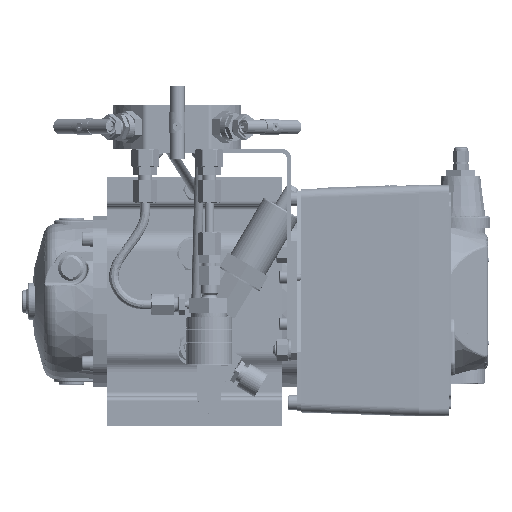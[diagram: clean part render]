
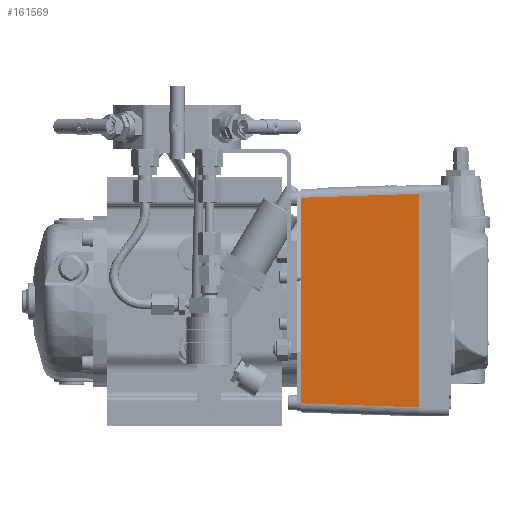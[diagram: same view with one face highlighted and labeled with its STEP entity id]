
A CAD part, top view. The second image highlights one B-rep face of the part: STEP entity #161569.
In plain terms, the highlighted planar face has unit normal (-0.034, 0, 0.999).
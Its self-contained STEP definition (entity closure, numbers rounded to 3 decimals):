
#161569=ADVANCED_FACE('',(#229983),#229985,.T.);
#229983=FACE_BOUND('',#229984,.T.);
#229984=EDGE_LOOP('',(#258876,#258877,#258878,#258879));
#229985=PLANE('',#229986);
#229986=AXIS2_PLACEMENT_3D('',#229987,#229988,#229989);
#229987=CARTESIAN_POINT('',(73.,76.5,329.25));
#229988=DIRECTION('',(-0.034,0.,0.999));
#229989=DIRECTION('',(0.,-1.,0.));
#258876=ORIENTED_EDGE('',*,*,#305659,.F.);
#258877=ORIENTED_EDGE('',*,*,#305591,.T.);
#258878=ORIENTED_EDGE('',*,*,#305660,.T.);
#258879=ORIENTED_EDGE('',*,*,#305553,.F.);
#305553=EDGE_CURVE('',#451567,#451569,#451570,.T.);
#305591=EDGE_CURVE('',#451643,#451641,#451644,.T.);
#305659=EDGE_CURVE('',#451643,#451567,#451757,.T.);
#305660=EDGE_CURVE('',#451641,#451569,#451758,.T.);
#451567=VERTEX_POINT('',#455970);
#451569=VERTEX_POINT('',#455975);
#451570=LINE('',#455976,#455977);
#451641=VERTEX_POINT('',#456142);
#451643=VERTEX_POINT('',#456147);
#451644=LINE('',#456148,#456149);
#451757=LINE('',#457000,#457001);
#451758=LINE('',#457003,#457004);
#455970=CARTESIAN_POINT('',(154.,73.253,332.));
#455975=CARTESIAN_POINT('',(154.,-73.253,332.));
#455976=CARTESIAN_POINT('',(154.,73.253,332.));
#455977=VECTOR('',#455978,1.);
#455978=DIRECTION('',(0.,-1.,0.));
#456142=CARTESIAN_POINT('',(73.,-70.503,329.25));
#456147=CARTESIAN_POINT('',(73.,70.503,329.25));
#456148=CARTESIAN_POINT('',(73.,70.503,329.25));
#456149=VECTOR('',#456150,1.);
#456150=DIRECTION('',(0.,-1.,0.));
#457000=CARTESIAN_POINT('',(73.,70.503,329.25));
#457001=VECTOR('',#457002,1.);
#457002=DIRECTION('',(0.999,0.034,0.034));
#457003=CARTESIAN_POINT('',(73.,-70.503,329.25));
#457004=VECTOR('',#457005,1.);
#457005=DIRECTION('',(0.999,-0.034,0.034));
